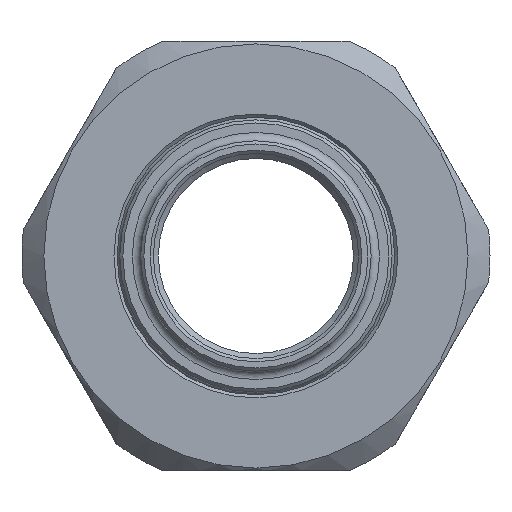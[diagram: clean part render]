
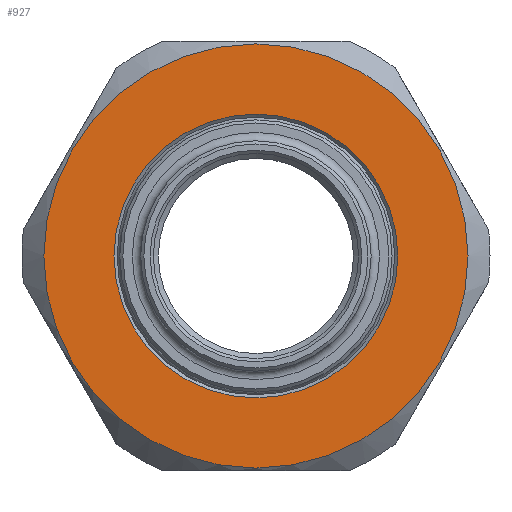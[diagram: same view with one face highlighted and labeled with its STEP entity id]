
A CAD part, left-side view. The second image highlights one B-rep face of the part: STEP entity #927.
In plain terms, the highlighted planar face has unit normal (-1, 0, 0).
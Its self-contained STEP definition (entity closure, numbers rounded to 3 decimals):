
#38=FACE_BOUND('',#179,.T.);
#89=PLANE('',#1081);
#121=FACE_OUTER_BOUND('',#178,.T.);
#178=EDGE_LOOP('',(#717));
#179=EDGE_LOOP('',(#718));
#329=CIRCLE('',#1061,20.25);
#339=CIRCLE('',#1080,13.55);
#416=VERTEX_POINT('',#1599);
#425=VERTEX_POINT('',#1634);
#520=EDGE_CURVE('',#416,#416,#329,.T.);
#534=EDGE_CURVE('',#425,#425,#339,.T.);
#717=ORIENTED_EDGE('',*,*,#520,.T.);
#718=ORIENTED_EDGE('',*,*,#534,.F.);
#927=ADVANCED_FACE('',(#121,#38),#89,.T.);
#1061=AXIS2_PLACEMENT_3D('',#1601,#1241,#1242);
#1080=AXIS2_PLACEMENT_3D('',#1635,#1282,#1283);
#1081=AXIS2_PLACEMENT_3D('',#1637,#1285,#1286);
#1241=DIRECTION('center_axis',(-1.,0.,0.));
#1242=DIRECTION('ref_axis',(0.,1.,0.));
#1282=DIRECTION('center_axis',(-1.,0.,0.));
#1283=DIRECTION('ref_axis',(0.,0.,-1.));
#1285=DIRECTION('center_axis',(-1.,0.,0.));
#1286=DIRECTION('ref_axis',(0.,0.,1.));
#1599=CARTESIAN_POINT('',(-16.,-20.25,0.));
#1601=CARTESIAN_POINT('Origin',(-16.,0.,0.));
#1634=CARTESIAN_POINT('',(-16.,0.,13.55));
#1635=CARTESIAN_POINT('Origin',(-16.,0.,0.));
#1637=CARTESIAN_POINT('Origin',(-16.,0.,0.));
